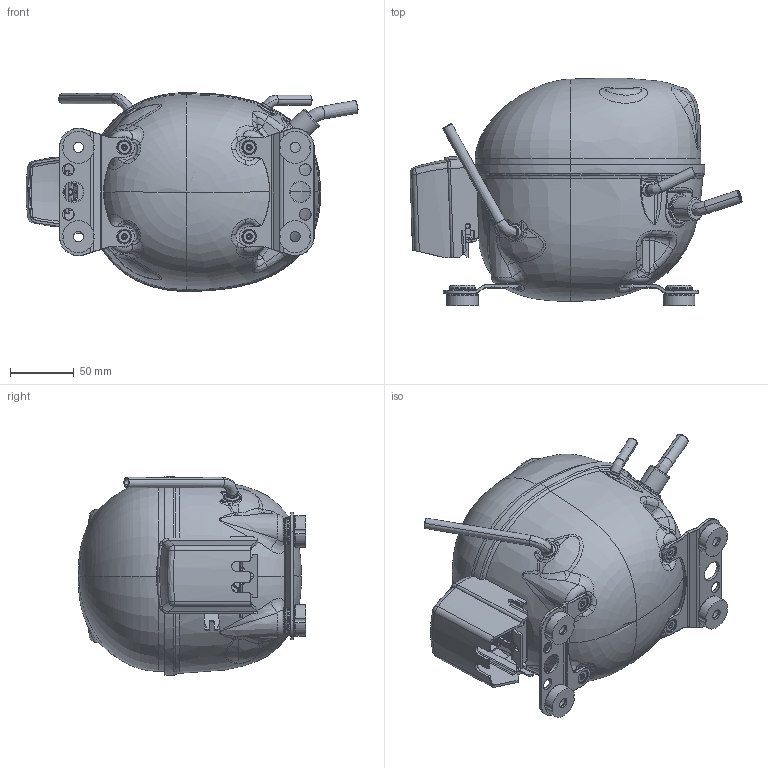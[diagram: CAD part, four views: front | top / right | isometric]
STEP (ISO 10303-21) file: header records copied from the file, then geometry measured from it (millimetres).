
FILE_DESCRIPTION((''),'2;1');
FILE_NAME('102B1274_102B1337_ASM','2019-01-29T',('U244840'),(''),'CREO PARAMETRIC BY PTC INC, 2015380','CREO PARAMETRIC BY PTC INC, 2015380','');
FILE_SCHEMA(('CONFIG_CONTROL_DESIGN'));
Length unit declared in the file: millimetre
Products named in the file (21): 102B1476; 102B1513; 60-35175_1; 12-60705_GLASS_1; 12-60705_GLASS-OA0_1; 12-60705_GLASS-OA1_1; 50-41378_1; 60-41459_1; ASSEM1_1_ASM; 117-3629_ASM; 103N0590; 102B1944_BONAITI; 102B1948_PS_BENDING_AF0; 102B1955_PS_BENDING_ASM; 102B1832_PS_BENDING_AF1; 102B1924_PS_BENDING_AF2; 102B1274_PS_ASM; 102B1337; 103N0491; 118-3661; 102B1274_102B1337_ASM
Assembly tree (26 placements, depth 5):
  102B1274_102B1337_ASM
    102B1274_PS_ASM
      102B1476
      102B1513  x2
      117-3629_ASM
        ASSEM1_1_ASM
          60-35175_1  x3
          12-60705_GLASS_1
          12-60705_GLASS-OA0_1
          12-60705_GLASS-OA1_1
          50-41378_1
          60-41459_1
      103N0590
      102B1955_PS_BENDING_ASM
        102B1944_BONAITI
        102B1948_PS_BENDING_AF0
      102B1832_PS_BENDING_AF1
      102B1924_PS_BENDING_AF2
    102B1337
    103N0491
    118-3661  x4
Bounding box: 260.47 x 178.2 x 156.03 mm (x, y, z)
Volume: 391855.4 mm3; surface area: 293144.2 mm2
Topology: 22 solids, 22 shells, 1912 faces, 4619 edges, 2763 vertices
Faces by surface type: plane 474, bspline 429, cylinder 416, torus 338, cone 200, sphere 35, revolution 20
Entity records: 83093 total; most frequent: CARTESIAN_POINT 46353, ORIENTED_EDGE 7998, DIRECTION 7089, EDGE_CURVE 3999, AXIS2_PLACEMENT_3D 2787, VERTEX_POINT 2431, EDGE_LOOP 1760, FACE_OUTER_BOUND 1652
